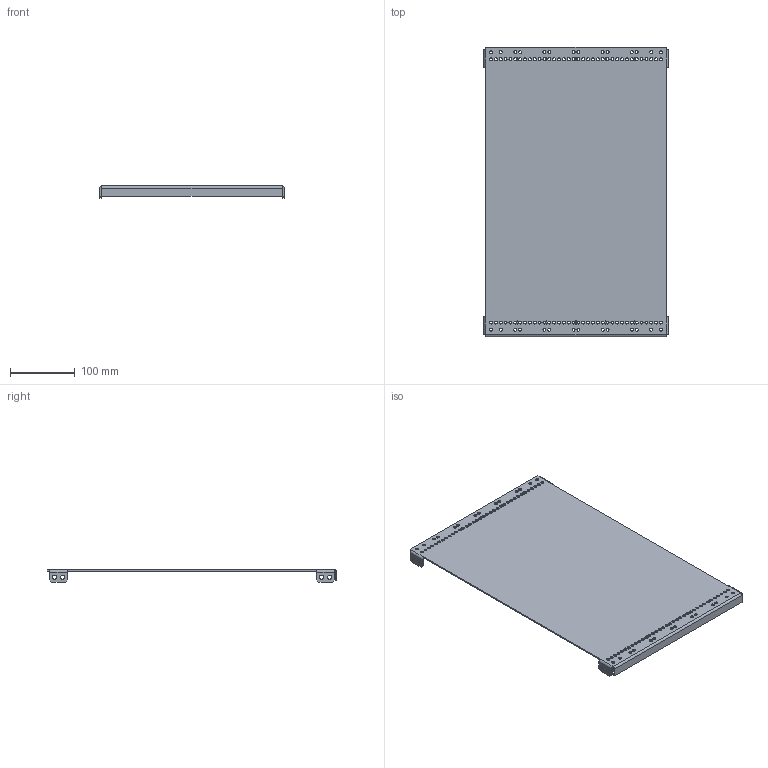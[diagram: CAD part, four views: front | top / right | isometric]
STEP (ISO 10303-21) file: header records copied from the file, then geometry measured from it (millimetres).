
FILE_DESCRIPTION(('STEP AP203'), '1');
FILE_NAME('Ïàíåëü áîêîâàÿ ðåëåéíîãî îòñåêà Â450õÃ400 ìì OptiBox M (2 øò) 419077 ÊÝÀÇ', '', ('UNSPECIFIED'), ('UNSPECIFIED'), 'C3D Converter', 'C3D Toolkit', '');
FILE_SCHEMA(('CONFIG_CONTROL_DESIGN'));
Length unit declared in the file: millimetre
Bounding box: 285 x 447 x 19 mm (x, y, z)
Volume: 256470.6 mm3; surface area: 263117 mm2
Topology: 1 solids, 1 shells, 208 faces, 578 edges, 372 vertices
Faces by surface type: cylinder 118, plane 90
Full cylindrical faces by diameter (mm): 4.6 x100, 6.3 x8
Entity records: 6670 total; most frequent: DIRECTION 1124, CARTESIAN_POINT 1051, ORIENTED_EDGE 940, EDGE_LOOP 552, EDGE_CURVE 470, AXIS2_PLACEMENT_3D 445, VERTEX_POINT 372, FACE_BOUND 336
